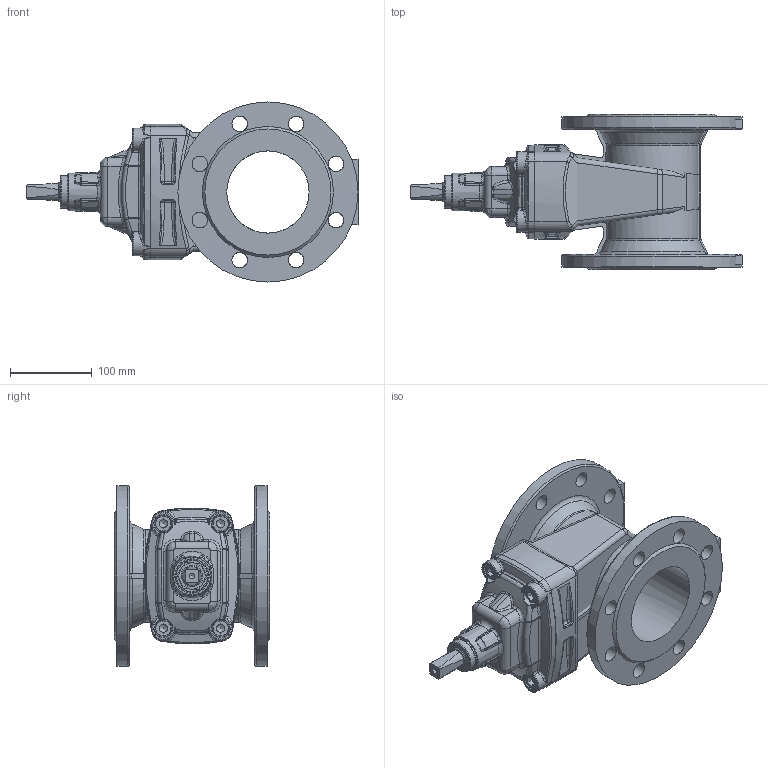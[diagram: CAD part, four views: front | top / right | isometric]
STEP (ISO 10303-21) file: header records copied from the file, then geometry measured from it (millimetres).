
FILE_DESCRIPTION(/* description */ (''),/* implementation_level */ '2;1');
FILE_NAME(/* name */ 'F4-DN100PN16.stp',/* time_stamp */ '2024-08-01T08:17:24+07:00',/* author */ ('Eva'),/* organization */ (''),/* preprocessor_version */ 'ST-DEVELOPER v20',/* originating_system */ 'Autodesk Inventor 2025',/* authorisation */ '');
FILE_SCHEMA (('AUTOMOTIVE_DESIGN { 1 0 10303 214 3 1 1 }'));
Products named in the file (13): F4-DN100PN16; ·§ёЛ DN100PN16(YZ45X04302-04-00 
); ·§ёЗ DN100PN16(YZ45X04302-02-00 
QT450-10); Ц№НЖВЭДё DN100PN16(YZ4
5X04302-09-00 ); ·АіѕГЬ·вИ¦ DN10
0PN16(YZ45X04302-10-00 NBR); M12 ДЪБщЅЗФІЦщН·ВЭ¶¤ 
GB T 70.1-2000(M12ЎБ25); ·§Ме DN100PN16(Z45X04303-01-00P 
QT450-10 ); ·§Ме DN100PN16(Z45X04303-01-00P 
QT450-10 )_1; ·§Ме DN100PN16(Z45X04303-01-00P 
QT450-10 )_2; ·§Ме DN100PN16(Z45X04303-01-00P 
QT450-10 )_3; ·§Ме DN100PN16(Z45X04303-01-00P 
QT450-10 )_4; ·§Ме DN100PN16(Z45X04303-01-00P 
QT450-10 )_5; ·§Ме DN100PN16(Z45X04303-01-00P 
QT450-10 )_6
Assembly tree (15 placements, depth 2):
  F4-DN100PN16
    ·§ёЛ DN100PN16(YZ45X04302-04-00 
)
    ·§ёЗ DN100PN16(YZ45X04302-02-00 
QT450-10)
    Ц№НЖВЭДё DN100PN16(YZ4
5X04302-09-00 )
    ·АіѕГЬ·вИ¦ DN10
0PN16(YZ45X04302-10-00 NBR)
    M12 ДЪБщЅЗФІЦщН·ВЭ¶¤ 
GB T 70.1-2000(M12ЎБ25)  x4
    ·§Ме DN100PN16(Z45X04303-01-00P 
QT450-10 )
    ·§Ме DN100PN16(Z45X04303-01-00P 
QT450-10 )_1
    ·§Ме DN100PN16(Z45X04303-01-00P 
QT450-10 )_2
    ·§Ме DN100PN16(Z45X04303-01-00P 
QT450-10 )_3
    ·§Ме DN100PN16(Z45X04303-01-00P 
QT450-10 )_4
    ·§Ме DN100PN16(Z45X04303-01-00P 
QT450-10 )_5
    ·§Ме DN100PN16(Z45X04303-01-00P 
QT450-10 )_6
Bounding box: 405.4 x 190 x 220 mm (x, y, z)
Volume: 2152161.4 mm3; surface area: 486908 mm2
Topology: 15 solids, 15 shells, 877 faces, 2107 edges, 1256 vertices
Faces by surface type: bspline 302, plane 231, cylinder 212, torus 61, cone 55, sphere 16
Full cylindrical faces by diameter (mm): 6.8 x1, 12 x4, 14 x4, 18.27 x4, 19 x16, 24 x3, 25 x1, 28.3 x1, 40 x1, 42 x1, 100.5 x1, 113.5 x2, 220 x2
Entity records: 45881 total; most frequent: CARTESIAN_POINT 27713, ORIENTED_EDGE 3952, DIRECTION 3385, EDGE_CURVE 1976, AXIS2_PLACEMENT_3D 1406, VERTEX_POINT 1196, EDGE_LOOP 892, FACE_OUTER_BOUND 823
